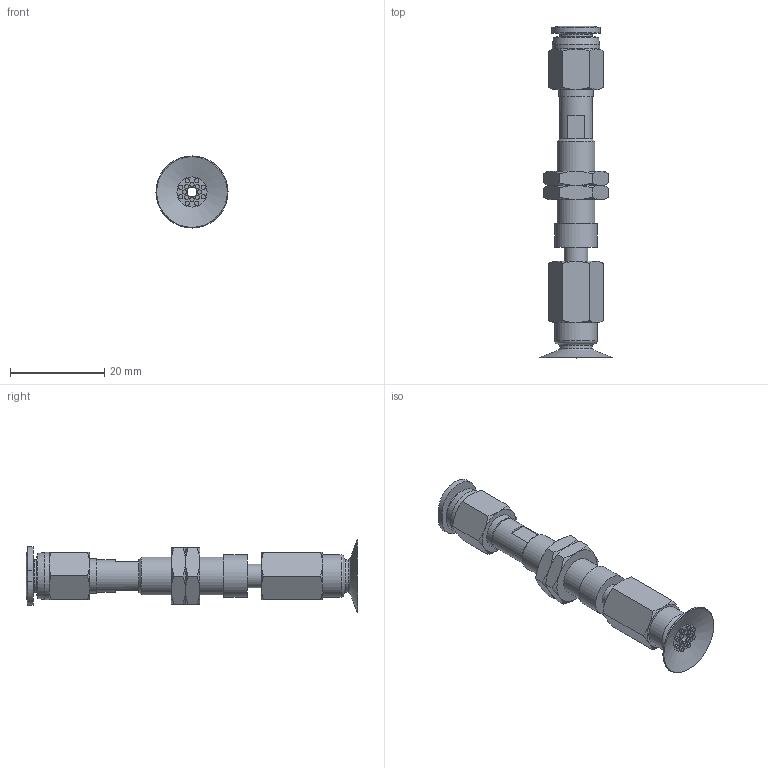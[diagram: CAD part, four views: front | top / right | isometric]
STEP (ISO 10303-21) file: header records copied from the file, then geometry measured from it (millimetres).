
FILE_DESCRIPTION(('STEP AP203'),'1');
FILE_NAME('-O.stp','2025-08-26T08:45:47',(' '),(' '),'Spatial InterOp 3D',' ',' ');
FILE_SCHEMA(('CONFIG_CONTROL_DESIGN'));
Length unit declared in the file: millimetre
Products named in the file (7): BNABPATS-15A-3-※-O; ADAPTER; NAPATS-10A-3--M; NAPATS-10A-3--F; Nut-10A-S; BPAG-15A-※_3D; PC-C_06-M5
Assembly tree (7 placements, depth 2):
  BNABPATS-15A-3-※-O
    ADAPTER
    NAPATS-10A-3--M
    NAPATS-10A-3--F
    Nut-10A-S  x2
    BPAG-15A-※_3D
    PC-C_06-M5
Bounding box: 15.3 x 70.48 x 15.3 mm (x, y, z)
Volume: 3408 mm3; surface area: 5234.5 mm2
Topology: 6 solids, 9 shells, 195 faces, 383 edges, 234 vertices
Faces by surface type: plane 74, cone 61, cylinder 42, torus 11, bspline 4, revolution 3
Full cylindrical faces by diameter (mm): 0.9 x16, 2 x3, 4 x4, 4.134 x1, 5 x3, 6 x2, 7 x3, 7.188 x2, 7.4 x1, 8 x1, 8.2 x1, 9 x2, 10 x1
Entity records: 4776 total; most frequent: CARTESIAN_POINT 1275, DIRECTION 675, ORIENTED_EDGE 520, AXIS2_PLACEMENT_3D 316, EDGE_LOOP 276, EDGE_CURVE 262, VERTEX_POINT 196, FACE_OUTER_BOUND 162
